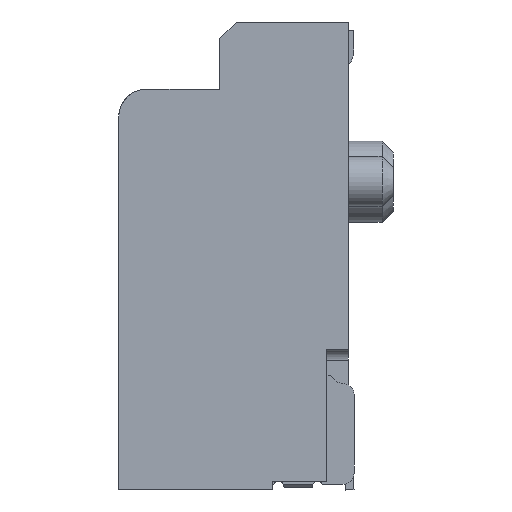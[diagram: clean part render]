
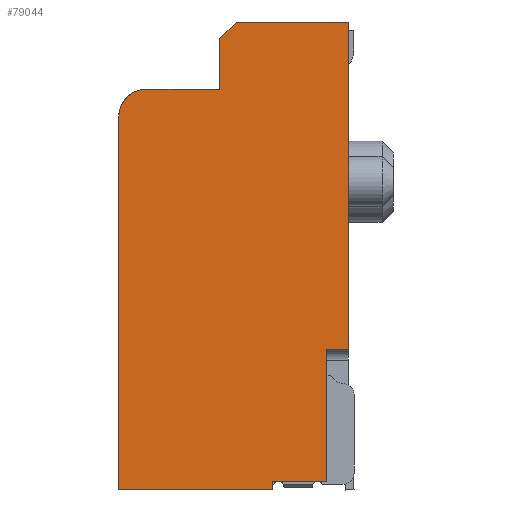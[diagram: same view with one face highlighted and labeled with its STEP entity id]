
A CAD part, left-side view. The second image highlights one B-rep face of the part: STEP entity #79044.
In plain terms, the highlighted planar face has unit normal (-1, 0, 0).
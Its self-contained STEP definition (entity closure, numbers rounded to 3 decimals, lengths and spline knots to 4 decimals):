
#613 = CARTESIAN_POINT ( 'NONE',  ( -13.073, 1.4139, 2.475 ) ) ;
#1339 = CARTESIAN_POINT ( 'NONE',  ( -13.073, -2.6861, -1.675 ) ) ;
#2756 = LINE ( 'NONE', #76625, #67920 ) ;
#3478 = LINE ( 'NONE', #47507, #36066 ) ;
#3816 = ORIENTED_EDGE ( 'NONE', *, *, #14322, .T. ) ;
#4287 = ORIENTED_EDGE ( 'NONE', *, *, #10699, .T. ) ;
#4628 = CARTESIAN_POINT ( 'NONE',  ( -13.073, -0.3861, 3.875 ) ) ;
#4828 = CARTESIAN_POINT ( 'NONE',  ( -13.073, -2.6861, 4.175 ) ) ;
#5157 = DIRECTION ( 'NONE',  ( 0., 0., 1. ) ) ;
#6494 = CARTESIAN_POINT ( 'NONE',  ( -13.073, -2.6861, -1.675 ) ) ;
#6603 = CARTESIAN_POINT ( 'NONE',  ( -13.073, -2.2861, -4.025 ) ) ;
#6814 = AXIS2_PLACEMENT_3D ( 'NONE', #25238, #66268, #5157 ) ;
#6848 = CARTESIAN_POINT ( 'NONE',  ( -13.073, -0.3861, 3.875 ) ) ;
#6982 = DIRECTION ( 'NONE',  ( 0., 0., 1. ) ) ;
#8079 = EDGE_CURVE ( 'NONE', #81589, #93609, #23333, .T. ) ;
#8216 = VERTEX_POINT ( 'NONE', #77127 ) ;
#9623 = DIRECTION ( 'NONE',  ( 0., -1., 0. ) ) ;
#10699 = EDGE_CURVE ( 'NONE', #81589, #89614, #22125, .T. ) ;
#13018 = DIRECTION ( 'NONE',  ( 0., 1., 0. ) ) ;
#13332 = ORIENTED_EDGE ( 'NONE', *, *, #33475, .T. ) ;
#14322 = EDGE_CURVE ( 'NONE', #47082, #80213, #47885, .T. ) ;
#15311 = VERTEX_POINT ( 'NONE', #62636 ) ;
#15791 = EDGE_CURVE ( 'NONE', #72897, #47082, #43786, .T. ) ;
#16705 = CARTESIAN_POINT ( 'NONE',  ( -13.073, -0.6861, 4.175 ) ) ;
#17282 = CARTESIAN_POINT ( 'NONE',  ( -13.073, 1.4139, -4.175 ) ) ;
#18529 = DIRECTION ( 'NONE',  ( 0., 0., -1. ) ) ;
#20825 = CARTESIAN_POINT ( 'NONE',  ( -13.073, -2.6861, 4.175 ) ) ;
#22125 = LINE ( 'NONE', #6494, #38794 ) ;
#22311 = EDGE_CURVE ( 'NONE', #46017, #31808, #35437, .T. ) ;
#22481 = CARTESIAN_POINT ( 'NONE',  ( -13.073, -1.3361, -4.175 ) ) ;
#22761 = VECTOR ( 'NONE', #35916, 1000. ) ;
#22938 = ORIENTED_EDGE ( 'NONE', *, *, #95312, .T. ) ;
#23145 = ORIENTED_EDGE ( 'NONE', *, *, #15791, .T. ) ;
#23333 = LINE ( 'NONE', #1339, #92486 ) ;
#24718 = ORIENTED_EDGE ( 'NONE', *, *, #8079, .F. ) ;
#25238 = CARTESIAN_POINT ( 'NONE',  ( -13.073, 1.2139, 2.975 ) ) ;
#25609 = CARTESIAN_POINT ( 'NONE',  ( -13.073, -0.3861, 2.975 ) ) ;
#26093 = CARTESIAN_POINT ( 'NONE',  ( -13.073, -0.3861, 2.975 ) ) ;
#26444 = LINE ( 'NONE', #16705, #61971 ) ;
#27122 = ORIENTED_EDGE ( 'NONE', *, *, #22311, .T. ) ;
#29111 = CARTESIAN_POINT ( 'NONE',  ( -13.073, -0.6861, 4.175 ) ) ;
#30052 = LINE ( 'NONE', #6603, #60097 ) ;
#31808 = VERTEX_POINT ( 'NONE', #25609 ) ;
#33109 = VERTEX_POINT ( 'NONE', #51245 ) ;
#33250 = EDGE_CURVE ( 'NONE', #80213, #15311, #2756, .T. ) ;
#33475 = EDGE_CURVE ( 'NONE', #8216, #93609, #30052, .T. ) ;
#35437 = LINE ( 'NONE', #4628, #22761 ) ;
#35916 = DIRECTION ( 'NONE',  ( 0., 0., -1. ) ) ;
#36066 = VECTOR ( 'NONE', #63631, 1000. ) ;
#38429 = DIRECTION ( 'NONE',  ( 0., 0., 1. ) ) ;
#38794 = VECTOR ( 'NONE', #6982, 1000. ) ;
#41253 = DIRECTION ( 'NONE',  ( 0., 1., 0. ) ) ;
#43786 = CIRCLE ( 'NONE', #90672, 0.5 ) ;
#45221 = DIRECTION ( 'NONE',  ( 0., 0., 1. ) ) ;
#45815 = EDGE_CURVE ( 'NONE', #8216, #33109, #3478, .T. ) ;
#46017 = VERTEX_POINT ( 'NONE', #6848 ) ;
#47082 = VERTEX_POINT ( 'NONE', #68896 ) ;
#47507 = CARTESIAN_POINT ( 'NONE',  ( -13.073, -2.2861, -4.025 ) ) ;
#47885 = LINE ( 'NONE', #613, #48809 ) ;
#48809 = VECTOR ( 'NONE', #18529, 1000. ) ;
#51245 = CARTESIAN_POINT ( 'NONE',  ( -13.073, -1.3361, -4.025 ) ) ;
#51377 = LINE ( 'NONE', #22481, #61928 ) ;
#51472 = EDGE_CURVE ( 'NONE', #92333, #46017, #26444, .T. ) ;
#52044 = ORIENTED_EDGE ( 'NONE', *, *, #93426, .T. ) ;
#52057 = VECTOR ( 'NONE', #41253, 1000. ) ;
#54035 = CARTESIAN_POINT ( 'NONE',  ( -13.073, -2.6861, -1.675 ) ) ;
#54957 = ORIENTED_EDGE ( 'NONE', *, *, #51472, .T. ) ;
#56284 = ORIENTED_EDGE ( 'NONE', *, *, #70162, .T. ) ;
#58742 = CARTESIAN_POINT ( 'NONE',  ( -13.073, 0.9139, 2.975 ) ) ;
#60097 = VECTOR ( 'NONE', #45221, 1000. ) ;
#60437 = DIRECTION ( 'NONE',  ( -1., 0., 0. ) ) ;
#61928 = VECTOR ( 'NONE', #82166, 1000. ) ;
#61971 = VECTOR ( 'NONE', #62176, 1000. ) ;
#62176 = DIRECTION ( 'NONE',  ( 0., 0.707, -0.707 ) ) ;
#62420 = FACE_OUTER_BOUND ( 'NONE', #86227, .T. ) ;
#62636 = CARTESIAN_POINT ( 'NONE',  ( -13.073, -1.3361, -4.175 ) ) ;
#63631 = DIRECTION ( 'NONE',  ( 0., 1., 0. ) ) ;
#63752 = LINE ( 'NONE', #26093, #52057 ) ;
#66268 = DIRECTION ( 'NONE',  ( -1., 0., 0. ) ) ;
#67920 = VECTOR ( 'NONE', #9623, 1000. ) ;
#68896 = CARTESIAN_POINT ( 'NONE',  ( -13.073, 1.4139, 2.475 ) ) ;
#70162 = EDGE_CURVE ( 'NONE', #31808, #72897, #63752, .T. ) ;
#72897 = VERTEX_POINT ( 'NONE', #58742 ) ;
#75590 = CARTESIAN_POINT ( 'NONE',  ( -13.073, 0.9139, 2.475 ) ) ;
#76625 = CARTESIAN_POINT ( 'NONE',  ( -13.073, 1.4139, -4.175 ) ) ;
#77025 = CARTESIAN_POINT ( 'NONE',  ( -13.073, -2.2861, -1.675 ) ) ;
#77127 = CARTESIAN_POINT ( 'NONE',  ( -13.073, -2.2861, -4.025 ) ) ;
#79044 = ADVANCED_FACE ( 'NONE', ( #62420 ), #92224, .T. ) ;
#80213 = VERTEX_POINT ( 'NONE', #17282 ) ;
#81006 = ORIENTED_EDGE ( 'NONE', *, *, #33250, .T. ) ;
#81589 = VERTEX_POINT ( 'NONE', #54035 ) ;
#82166 = DIRECTION ( 'NONE',  ( 0., 0., 1. ) ) ;
#83978 = DIRECTION ( 'NONE',  ( 0., 1., 0. ) ) ;
#84961 = ORIENTED_EDGE ( 'NONE', *, *, #45815, .F. ) ;
#86227 = EDGE_LOOP ( 'NONE', ( #52044, #54957, #27122, #56284, #23145, #3816, #81006, #22938, #84961, #13332, #24718, #4287 ) ) ;
#88361 = VECTOR ( 'NONE', #13018, 1000. ) ;
#88789 = LINE ( 'NONE', #20825, #88361 ) ;
#89614 = VERTEX_POINT ( 'NONE', #4828 ) ;
#90672 = AXIS2_PLACEMENT_3D ( 'NONE', #75590, #60437, #38429 ) ;
#92224 = PLANE ( 'NONE',  #6814 ) ;
#92333 = VERTEX_POINT ( 'NONE', #29111 ) ;
#92486 = VECTOR ( 'NONE', #83978, 1000. ) ;
#93426 = EDGE_CURVE ( 'NONE', #89614, #92333, #88789, .T. ) ;
#93609 = VERTEX_POINT ( 'NONE', #77025 ) ;
#95312 = EDGE_CURVE ( 'NONE', #15311, #33109, #51377, .T. ) ;
